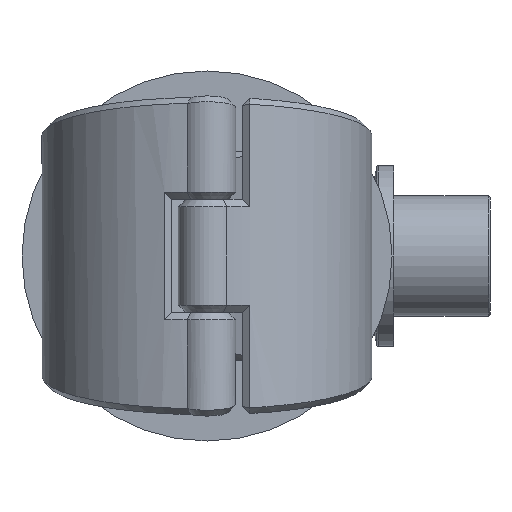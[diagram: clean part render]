
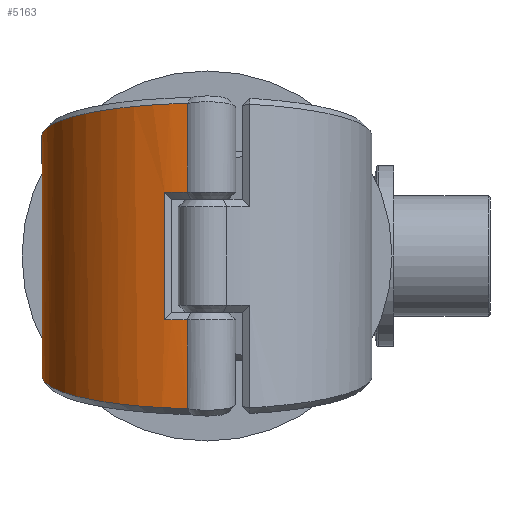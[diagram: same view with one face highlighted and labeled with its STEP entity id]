
A CAD part, front view. The second image highlights one B-rep face of the part: STEP entity #5163.
In plain terms, the highlighted cylindrical face has radius 45.5 mm (diameter 91 mm), a partial arc.
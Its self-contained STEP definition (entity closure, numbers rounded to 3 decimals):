
#171=CYLINDRICAL_SURFACE('',#5540,45.5);
#388=FACE_OUTER_BOUND('',#730,.T.);
#730=EDGE_LOOP('',(#3521,#3522,#3523,#3524,#3525,#3526,#3527,#3528,#3529,
#3530,#3531,#3532));
#1089=B_SPLINE_CURVE_WITH_KNOTS('',3,(#7728,#7729,#7730,#7731),
 .UNSPECIFIED.,.F.,.F.,(4,4),(-0.004,0.),.UNSPECIFIED.);
#1090=B_SPLINE_CURVE_WITH_KNOTS('',3,(#7733,#7734,#7735,#7736),
 .UNSPECIFIED.,.F.,.F.,(4,4),(-3.022,-3.021),
 .UNSPECIFIED.);
#1091=B_SPLINE_CURVE_WITH_KNOTS('',3,(#7738,#7739,#7740,#7741,#7742,#7743,
#7744,#7745,#7746,#7747),.UNSPECIFIED.,.F.,.F.,(4,1,1,1,1,1,1,4),(0.315,
0.537,0.954,1.371,1.788,2.205,
2.622,3.021),.UNSPECIFIED.);
#1092=B_SPLINE_CURVE_WITH_KNOTS('',3,(#7751,#7752,#7753,#7754,#7755,#7756,
#7757,#7758,#7759,#7760),.UNSPECIFIED.,.F.,.F.,(4,1,1,1,1,1,1,4),(-3.021,
-2.622,-2.205,-1.788,-1.371,
-0.954,-0.537,-0.315),.UNSPECIFIED.);
#1093=B_SPLINE_CURVE_WITH_KNOTS('',3,(#7762,#7763,#7764,#7765),
 .UNSPECIFIED.,.F.,.F.,(4,4),(3.021,3.022),
 .UNSPECIFIED.);
#1094=B_SPLINE_CURVE_WITH_KNOTS('',3,(#7767,#7768,#7769,#7770),
 .UNSPECIFIED.,.F.,.F.,(4,4),(-1.087,-1.085),
 .UNSPECIFIED.);
#1317=LINE('',#7662,#1555);
#1323=LINE('',#7726,#1561);
#1324=LINE('',#7749,#1562);
#1325=LINE('',#7771,#1563);
#1555=VECTOR('',#6155,10.);
#1561=VECTOR('',#6201,10.);
#1562=VECTOR('',#6202,10.);
#1563=VECTOR('',#6203,10.);
#1798=CIRCLE('',#5530,45.5);
#1801=CIRCLE('',#5535,45.5);
#2137=VERTEX_POINT('',#7656);
#2138=VERTEX_POINT('',#7661);
#2144=VERTEX_POINT('',#7682);
#2147=VERTEX_POINT('',#7703);
#2151=VERTEX_POINT('',#7725);
#2152=VERTEX_POINT('',#7727);
#2153=VERTEX_POINT('',#7732);
#2154=VERTEX_POINT('',#7737);
#2155=VERTEX_POINT('',#7748);
#2156=VERTEX_POINT('',#7750);
#2157=VERTEX_POINT('',#7761);
#2158=VERTEX_POINT('',#7766);
#2646=EDGE_CURVE('',#2137,#2138,#1317,.T.);
#2659=EDGE_CURVE('',#2144,#2137,#1798,.T.);
#2664=EDGE_CURVE('',#2138,#2147,#1801,.T.);
#2670=EDGE_CURVE('',#2151,#2144,#1323,.T.);
#2671=EDGE_CURVE('',#2152,#2151,#1089,.T.);
#2672=EDGE_CURVE('',#2152,#2153,#1090,.T.);
#2673=EDGE_CURVE('',#2154,#2153,#1091,.T.);
#2674=EDGE_CURVE('',#2155,#2154,#1324,.T.);
#2675=EDGE_CURVE('',#2156,#2155,#1092,.T.);
#2676=EDGE_CURVE('',#2156,#2157,#1093,.T.);
#2677=EDGE_CURVE('',#2158,#2157,#1094,.T.);
#2678=EDGE_CURVE('',#2147,#2158,#1325,.T.);
#3521=ORIENTED_EDGE('',*,*,#2664,.F.);
#3522=ORIENTED_EDGE('',*,*,#2646,.F.);
#3523=ORIENTED_EDGE('',*,*,#2659,.F.);
#3524=ORIENTED_EDGE('',*,*,#2670,.F.);
#3525=ORIENTED_EDGE('',*,*,#2671,.F.);
#3526=ORIENTED_EDGE('',*,*,#2672,.T.);
#3527=ORIENTED_EDGE('',*,*,#2673,.F.);
#3528=ORIENTED_EDGE('',*,*,#2674,.F.);
#3529=ORIENTED_EDGE('',*,*,#2675,.F.);
#3530=ORIENTED_EDGE('',*,*,#2676,.T.);
#3531=ORIENTED_EDGE('',*,*,#2677,.F.);
#3532=ORIENTED_EDGE('',*,*,#2678,.F.);
#5163=ADVANCED_FACE('',(#388),#171,.T.);
#5530=AXIS2_PLACEMENT_3D('',#7698,#6177,#6178);
#5535=AXIS2_PLACEMENT_3D('',#7712,#6187,#6188);
#5540=AXIS2_PLACEMENT_3D('',#7724,#6199,#6200);
#6155=DIRECTION('',(0.,0.,-1.));
#6177=DIRECTION('center_axis',(0.,0.,-1.));
#6178=DIRECTION('ref_axis',(0.312,-0.95,0.));
#6187=DIRECTION('center_axis',(0.,0.,1.));
#6188=DIRECTION('ref_axis',(0.312,-0.95,0.));
#6199=DIRECTION('center_axis',(0.,0.,1.));
#6200=DIRECTION('ref_axis',(-0.312,0.95,0.));
#6201=DIRECTION('',(0.,0.,-1.));
#6202=DIRECTION('',(0.,0.,1.));
#6203=DIRECTION('',(0.,0.,-1.));
#7656=CARTESIAN_POINT('',(-11.743,-43.958,17.575));
#7661=CARTESIAN_POINT('',(-11.743,-43.958,-17.575));
#7662=CARTESIAN_POINT('',(-11.743,-43.958,0.));
#7682=CARTESIAN_POINT('',(-5.414,-45.177,17.575));
#7698=CARTESIAN_POINT('Origin',(0.,0.,17.575));
#7703=CARTESIAN_POINT('',(-5.414,-45.177,-17.575));
#7712=CARTESIAN_POINT('Origin',(0.,0.,-17.575));
#7724=CARTESIAN_POINT('Origin',(0.,0.,0.));
#7725=CARTESIAN_POINT('',(-5.414,-45.177,42.06));
#7726=CARTESIAN_POINT('',(-5.414,-45.177,0.));
#7727=CARTESIAN_POINT('',(-5.384,-45.18,42.079));
#7728=CARTESIAN_POINT('Ctrl Pts',(-5.384,-45.18,42.079));
#7729=CARTESIAN_POINT('Ctrl Pts',(-5.394,-45.179,42.072));
#7730=CARTESIAN_POINT('Ctrl Pts',(-5.404,-45.178,42.066));
#7731=CARTESIAN_POINT('Ctrl Pts',(-5.414,-45.176,42.06));
#7732=CARTESIAN_POINT('',(-5.414,-45.177,42.078));
#7733=CARTESIAN_POINT('Ctrl Pts',(-5.384,-45.18,42.079));
#7734=CARTESIAN_POINT('Ctrl Pts',(-5.394,-45.179,42.079));
#7735=CARTESIAN_POINT('Ctrl Pts',(-5.404,-45.178,42.078));
#7736=CARTESIAN_POINT('Ctrl Pts',(-5.414,-45.177,42.078));
#7737=CARTESIAN_POINT('',(-14.207,43.225,24.696));
#7738=CARTESIAN_POINT('Ctrl Pts',(-14.206,43.222,24.697));
#7739=CARTESIAN_POINT('Ctrl Pts',(-17.433,42.162,24.904));
#7740=CARTESIAN_POINT('Ctrl Pts',(-26.375,38.081,25.7));
#7741=CARTESIAN_POINT('Ctrl Pts',(-38.409,26.828,27.897));
#7742=CARTESIAN_POINT('Ctrl Pts',(-45.992,8.909,31.407));
#7743=CARTESIAN_POINT('Ctrl Pts',(-45.645,-10.475,35.218));
#7744=CARTESIAN_POINT('Ctrl Pts',(-37.531,-28.007,38.678));
#7745=CARTESIAN_POINT('Ctrl Pts',(-23.277,-40.558,41.162));
#7746=CARTESIAN_POINT('Ctrl Pts',(-11.379,-44.461,41.936));
#7747=CARTESIAN_POINT('Ctrl Pts',(-5.414,-45.177,42.078));
#7748=CARTESIAN_POINT('',(-14.207,43.225,-24.696));
#7749=CARTESIAN_POINT('',(-14.207,43.225,0.));
#7750=CARTESIAN_POINT('',(-5.414,-45.177,-42.078));
#7751=CARTESIAN_POINT('Ctrl Pts',(-5.414,-45.177,-42.078));
#7752=CARTESIAN_POINT('Ctrl Pts',(-11.379,-44.461,-41.936));
#7753=CARTESIAN_POINT('Ctrl Pts',(-23.277,-40.558,-41.162));
#7754=CARTESIAN_POINT('Ctrl Pts',(-37.528,-28.006,-38.678));
#7755=CARTESIAN_POINT('Ctrl Pts',(-45.651,-10.476,-35.218));
#7756=CARTESIAN_POINT('Ctrl Pts',(-45.986,8.909,-31.407));
#7757=CARTESIAN_POINT('Ctrl Pts',(-38.414,26.831,-27.896));
#7758=CARTESIAN_POINT('Ctrl Pts',(-26.373,38.079,-25.7));
#7759=CARTESIAN_POINT('Ctrl Pts',(-17.432,42.161,-24.904));
#7760=CARTESIAN_POINT('Ctrl Pts',(-14.206,43.221,-24.697));
#7761=CARTESIAN_POINT('',(-5.384,-45.18,-42.079));
#7762=CARTESIAN_POINT('Ctrl Pts',(-5.414,-45.177,-42.078));
#7763=CARTESIAN_POINT('Ctrl Pts',(-5.404,-45.178,-42.078));
#7764=CARTESIAN_POINT('Ctrl Pts',(-5.394,-45.179,-42.079));
#7765=CARTESIAN_POINT('Ctrl Pts',(-5.384,-45.18,-42.079));
#7766=CARTESIAN_POINT('',(-5.414,-45.177,-42.06));
#7767=CARTESIAN_POINT('Ctrl Pts',(-5.414,-45.176,-42.06));
#7768=CARTESIAN_POINT('Ctrl Pts',(-5.404,-45.178,-42.066));
#7769=CARTESIAN_POINT('Ctrl Pts',(-5.394,-45.179,-42.072));
#7770=CARTESIAN_POINT('Ctrl Pts',(-5.384,-45.18,-42.079));
#7771=CARTESIAN_POINT('',(-5.414,-45.177,0.));
